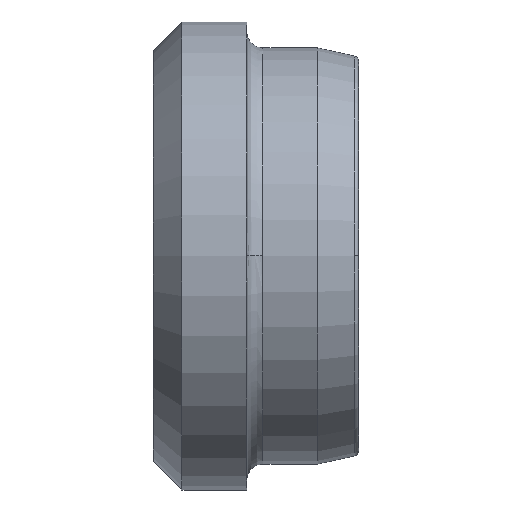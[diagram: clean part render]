
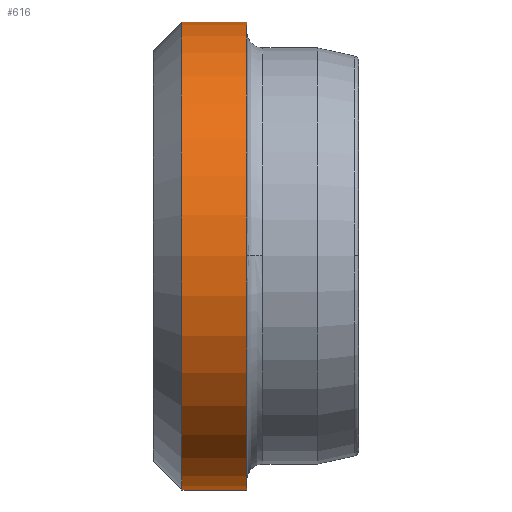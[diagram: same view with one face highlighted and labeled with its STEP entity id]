
A CAD part, top view. The second image highlights one B-rep face of the part: STEP entity #616.
In plain terms, the highlighted cylindrical face has radius 11.5 mm (diameter 23 mm), a partial arc.
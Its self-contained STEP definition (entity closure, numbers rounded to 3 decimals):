
#575=CARTESIAN_POINT('',(-3.037,-4.633,0.0));
#576=DIRECTION('',(1.0,0.0,0.0));
#577=DIRECTION('',(0.0,1.0,0.0));
#578=AXIS2_PLACEMENT_3D('',#575,#576,#577);
#579=CYLINDRICAL_SURFACE('',#578,11.5);
#580=CARTESIAN_POINT('',(-3.925,6.867,0.0));
#581=VERTEX_POINT('',#580);
#582=CARTESIAN_POINT('',(-0.75,6.867,0.0));
#583=VERTEX_POINT('',#582);
#584=CARTESIAN_POINT('',(-3.925,6.867,0.0));
#585=DIRECTION('',(1.0,0.0,0.0));
#586=VECTOR('',#585,3.175);
#587=LINE('',#584,#586);
#588=EDGE_CURVE('',#581,#583,#587,.T.);
#589=ORIENTED_EDGE('',*,*,#588,.F.);
#590=CARTESIAN_POINT('',(-3.925,-16.133,0.));
#591=VERTEX_POINT('',#590);
#592=CARTESIAN_POINT('',(-3.925,-4.633,0.0));
#593=DIRECTION('',(-1.0,0.0,0.0));
#594=DIRECTION('',(0.0,-1.0,0.0));
#595=AXIS2_PLACEMENT_3D('',#592,#593,#594);
#596=CIRCLE('',#595,11.5);
#597=EDGE_CURVE('',#591,#581,#596,.T.);
#598=ORIENTED_EDGE('',*,*,#597,.F.);
#599=CARTESIAN_POINT('',(-0.75,-16.133,0.));
#600=VERTEX_POINT('',#599);
#601=CARTESIAN_POINT('',(-0.75,-16.133,0.));
#602=DIRECTION('',(-1.0,0.0,0.0));
#603=VECTOR('',#602,3.175);
#604=LINE('',#601,#603);
#605=EDGE_CURVE('',#600,#591,#604,.T.);
#606=ORIENTED_EDGE('',*,*,#605,.F.);
#607=CARTESIAN_POINT('',(-0.75,-4.633,0.0));
#608=DIRECTION('',(1.0,0.0,0.0));
#609=DIRECTION('',(0.0,1.0,0.0));
#610=AXIS2_PLACEMENT_3D('',#607,#608,#609);
#611=CIRCLE('',#610,11.5);
#612=EDGE_CURVE('',#583,#600,#611,.T.);
#613=ORIENTED_EDGE('',*,*,#612,.F.);
#614=EDGE_LOOP('',(#589,#598,#606,#613));
#615=FACE_OUTER_BOUND('',#614,.T.);
#616=ADVANCED_FACE('',(#615),#579,.T.);
